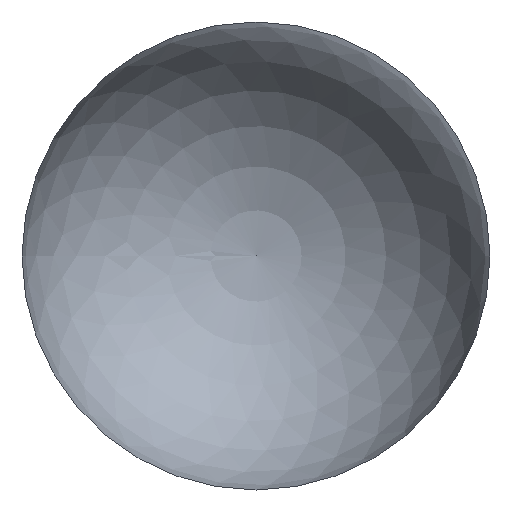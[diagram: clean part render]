
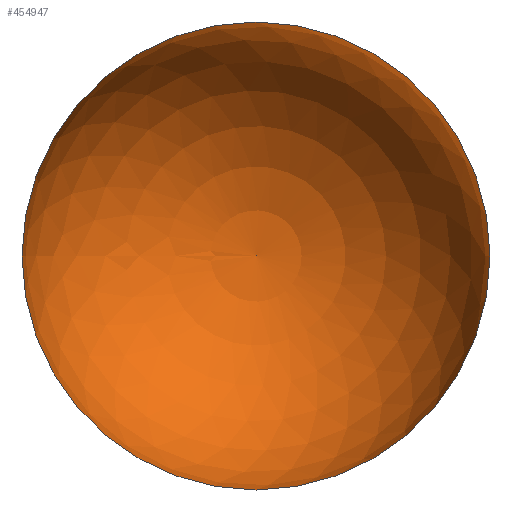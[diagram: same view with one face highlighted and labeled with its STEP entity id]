
A CAD part, left-side view. The second image highlights one B-rep face of the part: STEP entity #454947.
In plain terms, the highlighted spherical face has radius 0.23 mm.
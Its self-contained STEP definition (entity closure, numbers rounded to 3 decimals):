
#74=SPHERICAL_SURFACE('',#504205,0.23);
#65399=FACE_OUTER_BOUND('',#97542,.T.);
#97542=EDGE_LOOP('',(#413569,#413570,#413571,#413572));
#186737=CIRCLE('',#504206,0.23);
#186738=CIRCLE('',#504207,0.23);
#186739=CIRCLE('',#504208,0.23);
#227663=VERTEX_POINT('',#926767);
#227664=VERTEX_POINT('',#926768);
#227665=VERTEX_POINT('',#926771);
#290132=EDGE_CURVE('',#227663,#227664,#186737,.T.);
#290133=EDGE_CURVE('',#227664,#227663,#186738,.T.);
#290134=EDGE_CURVE('',#227664,#227665,#186739,.T.);
#413569=ORIENTED_EDGE('',*,*,#290132,.F.);
#413570=ORIENTED_EDGE('',*,*,#290133,.F.);
#413571=ORIENTED_EDGE('',*,*,#290134,.T.);
#413572=ORIENTED_EDGE('',*,*,#290134,.F.);
#454947=ADVANCED_FACE('',(#65399),#74,.T.);
#504205=AXIS2_PLACEMENT_3D('',#926766,#632662,#632663);
#504206=AXIS2_PLACEMENT_3D('',#926769,#632664,#632665);
#504207=AXIS2_PLACEMENT_3D('',#926770,#632666,#632667);
#504208=AXIS2_PLACEMENT_3D('',#926772,#632668,#632669);
#632662=DIRECTION('center_axis',(-1.,0.,0.));
#632663=DIRECTION('ref_axis',(0.,-1.,0.));
#632664=DIRECTION('center_axis',(-1.,0.,0.));
#632665=DIRECTION('ref_axis',(0.,0.,1.));
#632666=DIRECTION('center_axis',(-1.,0.,0.));
#632667=DIRECTION('ref_axis',(0.,0.,1.));
#632668=DIRECTION('center_axis',(0.,0.,-1.));
#632669=DIRECTION('ref_axis',(0.,1.,0.));
#926766=CARTESIAN_POINT('Origin',(-13.744,-18.156,-67.323));
#926767=CARTESIAN_POINT('',(-13.744,-18.156,-67.553));
#926768=CARTESIAN_POINT('',(-13.744,-17.926,-67.323));
#926769=CARTESIAN_POINT('Origin',(-13.744,-18.156,-67.323));
#926770=CARTESIAN_POINT('Origin',(-13.744,-18.156,-67.323));
#926771=CARTESIAN_POINT('',(-13.514,-18.156,-67.323));
#926772=CARTESIAN_POINT('Origin',(-13.744,-18.156,-67.323));
